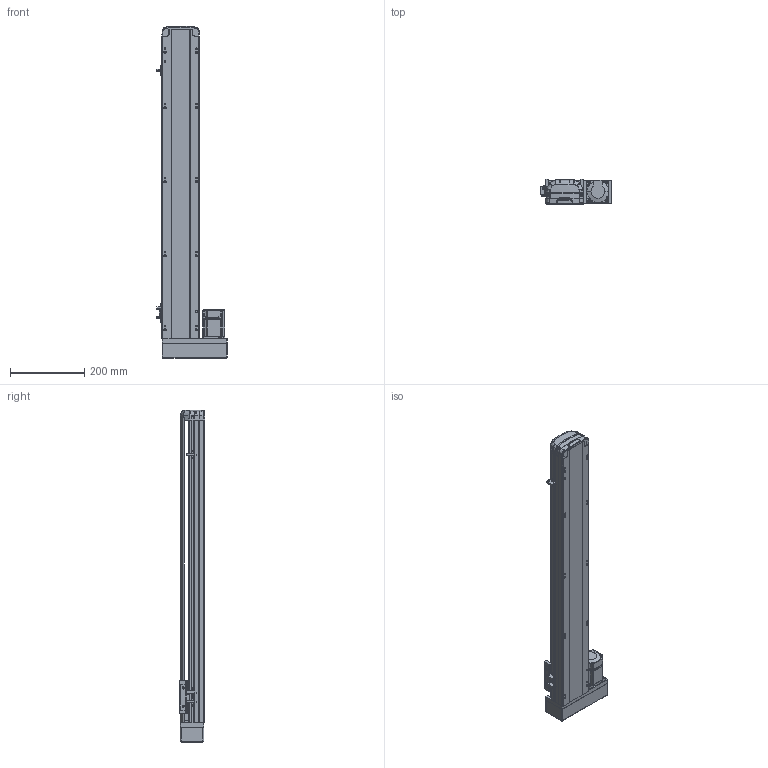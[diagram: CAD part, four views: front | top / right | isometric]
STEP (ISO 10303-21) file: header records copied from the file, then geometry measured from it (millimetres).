
FILE_DESCRIPTION (( 'STEP AP214' ), '1' );
FILE_NAME ('RTH10-XX-650-R-M20-C4.STEP', '2025-10-25T05:01:01', ( 'Microsoft' ), ( 'Microsoft' ), 'SwSTEP 2.0', 'SolidWorks 2018', '' );
FILE_SCHEMA (( 'AUTOMOTIVE_DESIGN' ));
Length unit declared in the file: millimetre
Products named in the file (10): N_RTH10-M-011P-臏倰第菁釱^RTH10-XX-XX-R-M20-C4; N_RTH10-L-018-裔赽^RTH10-XX-XX-R-M20-C4; N_RTH10-GY-001P^RTH10-XX-XX-R-M20-C4; RTH10-XX-650-R-M20-C4; N_RTH10-L-008萇儂啣^RTH10-XX-XX-R-M20-C4; N_RTH10-M-007P-奻裔^RTH10-XX-XX-R-M20-C4; N_RTH13-L-012覜茼え俋离^RTH10-XX-XX-R-M20-C4; N_200W-1^RTH10-XX-XX-R-M20-C4; N_RTH10-GY-004-賑釱^RTH10-XX-XX-R-M20-C4; N_OMRON EE-SX672 传感器^RTH10-XX-XX-R-M20-C4
Assembly tree (11 placements, depth 2):
  RTH10-XX-650-R-M20-C4
    N_RTH10-M-011P-臏倰第菁釱^RTH10-XX-XX-R-M20-C4
    N_RTH13-L-012覜茼え俋离^RTH10-XX-XX-R-M20-C4
    N_OMRON EE-SX672 传感器^RTH10-XX-XX-R-M20-C4  x3
    N_200W-1^RTH10-XX-XX-R-M20-C4
    N_RTH10-M-007P-奻裔^RTH10-XX-XX-R-M20-C4
    N_RTH10-L-008萇儂啣^RTH10-XX-XX-R-M20-C4
    N_RTH10-L-018-裔赽^RTH10-XX-XX-R-M20-C4
    N_RTH10-GY-004-賑釱^RTH10-XX-XX-R-M20-C4
    N_RTH10-GY-001P^RTH10-XX-XX-R-M20-C4
Bounding box: 190 x 70 x 897.14 mm (x, y, z)
Volume: 4063386.7 mm3; surface area: 617093.2 mm2
Topology: 10 solids, 12 shells, 1976 faces, 5509 edges, 3617 vertices
Faces by surface type: plane 983, cylinder 486, bspline 472, cone 29, sphere 4, torus 2
Entity records: 59499 total; most frequent: CARTESIAN_POINT 23365, ORIENTED_EDGE 8090, DIRECTION 6263, EDGE_CURVE 4051, VERTEX_POINT 2661, VECTOR 2169, LINE 2169, AXIS2_PLACEMENT_3D 2047
